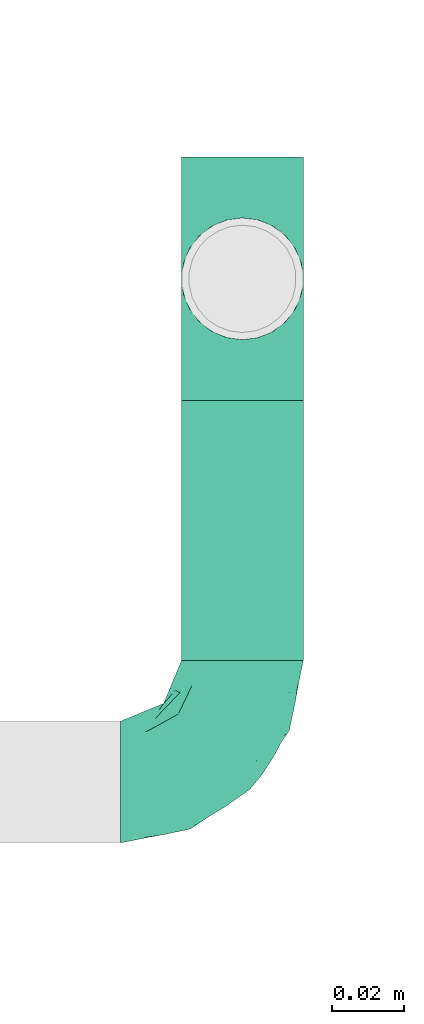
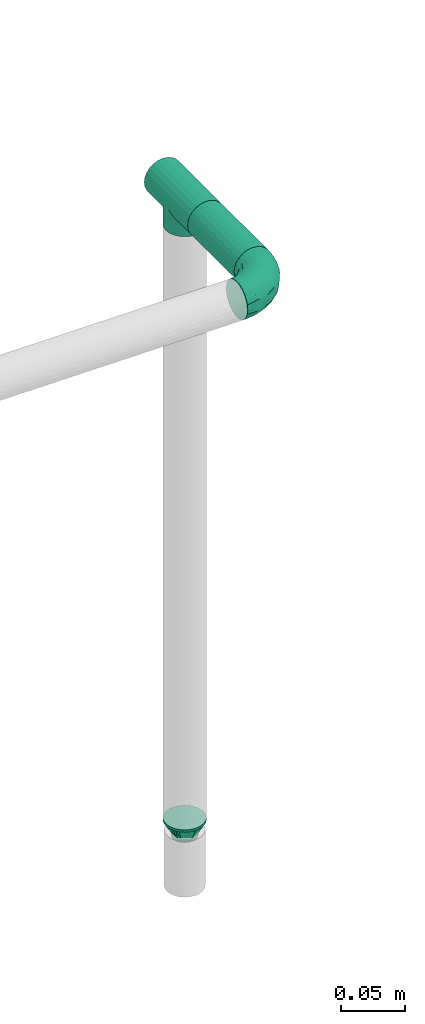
# One storey, part 81 of 94: 3 flow fittings, 1 flow segment.
"""IFC2X3 building model written with IfcOpenShell, lengths in millimetres."""

from ifc_helpers import new_model, entity, si_unit, converted_unit, derived_unit, direction, frame, origin_with_axes, origin_2d_with_axis, place, context, subcontext, project, spatial, hollow_circle, extrude, open_shell, surface_model, source, transform, mapped, type_object, element, save


model = new_model("IFC2X3")

# Units and contexts
model_context = context("Model", 3, precision=0.01, world=frame((0.0, 4.29681676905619e-09, 0.0)), true_north=direction((4.01073788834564e-13, 1.0)))
plan_context = context("Plan", 3, precision=0.01, world=frame((0.0, 4.29681676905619e-09, 0.0)), true_north=direction((4.01073788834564e-13, 1.0)))
body_context = subcontext(model_context, "Body", "Model", "MODEL_VIEW")
ifc_project = project(units=[converted_unit("PLANEANGLEUNIT", "DEGREE", entity("IfcPositiveLengthMeasure", 0.0174532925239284), si_unit("PLANEANGLEUNIT", "RADIAN"), dimensions=[0, 0, 0, 0, 0, 0, 0]), si_unit("AREAUNIT", "SQUARE_METRE"), si_unit("LENGTHUNIT", "METRE", prefix="MILLI"), si_unit("MASSUNIT", "GRAM", prefix="KILO"), si_unit("POWERUNIT", "WATT"), si_unit("PRESSUREUNIT", "PASCAL", prefix="KILO"), si_unit("FORCEUNIT", "NEWTON", prefix="KILO"), si_unit("ELECTRICVOLTAGEUNIT", "VOLT"), si_unit("ELECTRICCURRENTUNIT", "AMPERE"), si_unit("THERMODYNAMICTEMPERATUREUNIT", "DEGREE_CELSIUS"), si_unit("TIMEUNIT", "SECOND"), si_unit("VOLUMEUNIT", "CUBIC_METRE"), derived_unit("LINEARVELOCITYUNIT", [(si_unit("LENGTHUNIT", "METRE"), 1), (si_unit("TIMEUNIT", "SECOND"), -1)]), derived_unit("VOLUMETRICFLOWRATEUNIT", [(si_unit("VOLUMEUNIT", "CUBIC_METRE"), 1), (si_unit("TIMEUNIT", "SECOND"), -1)]), derived_unit("THERMALTRANSMITTANCEUNIT", [(si_unit("POWERUNIT", "WATT"), 1), (si_unit("THERMODYNAMICTEMPERATUREUNIT", "KELVIN"), -1), (si_unit("AREAUNIT", "SQUARE_METRE"), -1)]), derived_unit("SOUNDPRESSUREUNIT", [(si_unit("PRESSUREUNIT", "PASCAL"), 1)])], contexts=[model_context, plan_context])

# Site, building, storey
site_placement = place(None, frame((0.0, -4.29681676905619e-09, 0.0), z_axis=(0.0, 0.0, 1.0), x_axis=(1.0, 0.0, 0.0)))
site = spatial("IfcSite", under=ifc_project, at=site_placement, CompositionType="ELEMENT")
building_placement = place(site_placement, frame((0.0, 4.29681676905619e-09, 0.0), z_axis=(0.0, 0.0, 1.0), x_axis=(1.0, 0.0, 0.0)))
building = spatial("IfcBuilding", under=site, at=building_placement, Name="mc-building", CompositionType="ELEMENT")
storey_placement = place(building_placement, frame((0.0, 0.0, 210900.0), z_axis=(0.0, 0.0, 1.0), x_axis=(1.0, 0.0, 0.0)))
storey = spatial("IfcBuildingStorey", under=building, at=storey_placement, Name="Nivå F", CompositionType="ELEMENT", Elevation=210900.0)

# Flow fittings
pipe_fitting_type_1 = type_object("IfcPipeFittingType", Name="magi_pipe_fe_reducer_centric_short_NOR", PredefinedType="TRANSITION")
shared_shape_1 = source(origin_with_axes(), body_context, "Body", "SurfaceModel", [
    surface_model("IfcShellBasedSurfaceModel", [(14.4, 5.35, -9.26647), (14.4, 0.0, -10.7), (14.4, 2.76936, -10.33541), (14.4, 10.33541, -2.76936), (14.4, 7.56604, -7.56604), (14.4, -10.33541, -2.76936), (14.4, 9.26647, -5.35), (14.4, 0.0, 10.7), (14.4, -5.35, -9.26647), (14.4, -2.76936, -10.33541), (14.4, -7.56604, -7.56604), (14.4, -9.26647, -5.35), (14.4, 10.7, 0.0), (14.4, 10.33541, 2.76936), (14.4, 9.26647, 5.35), (14.4, 7.56604, 7.56604), (14.4, 2.76936, 10.33541), (14.4, 5.35, 9.26647), (14.4, -10.33541, 2.76936), (14.4, -7.56604, 7.56604), (14.4, -9.26647, 5.35), (14.4, -10.7, 0.0), (14.4, -2.76936, 10.33541), (14.4, -5.35, 9.26647), (12.4, 2.76936, 10.33541), (12.4, -10.33541, -2.76936), (12.4, 0.0, 10.7), (12.4, 5.35, 9.26647), (12.4, 7.56604, 7.56604), (12.4, 9.26647, 5.35), (12.4, 10.33541, 2.76936), (12.4, -10.33541, 2.76936), (12.4, -2.76936, 10.33541), (12.4, -7.56604, 7.56604), (12.4, -5.35, 9.26647), (12.4, -9.26647, 5.35), (12.4, -10.7, 0.0), (12.4, 10.33541, -2.76936), (12.4, 5.35, -9.26647), (12.4, 9.26647, -5.35), (12.4, 7.56604, -7.56604), (12.4, 2.76936, -10.33541), (12.4, -9.26647, -5.35), (12.4, -5.35, -9.26647), (12.4, -7.56604, -7.56604), (12.4, 0.0, -10.7), (12.4, -2.76936, -10.33541), (12.4, 10.7, 0.0), (-2.0, 11.9501, 11.9501), (-2.0, 0.0, 16.9), (-2.0, 4.37404, 16.32415), (-2.0, 8.45, 14.63583), (-2.0, 14.63583, 8.45), (-2.0, 16.32415, 4.37404), (-2.0, -16.32415, 4.37404), (-2.0, -8.45, 14.63583), (-2.0, -14.63583, 8.45), (-2.0, -11.9501, 11.9501), (-2.0, -4.37404, 16.32415), (-2.0, -16.32415, -4.37404), (-2.0, -16.9, 0.0), (-2.0, -8.45, -14.63583), (-2.0, 16.32415, -4.37404), (-2.0, 11.9501, -11.9501), (-2.0, 14.63583, -8.45), (-2.0, 8.45, -14.63583), (-2.0, 4.37404, -16.32415), (-2.0, 0.0, -16.9), (-2.0, -11.9501, -11.9501), (-2.0, -14.63583, -8.45), (-2.0, -4.37404, -16.32415), (-2.0, 16.9, 0.0), (0.0, 4.37404, -16.32415), (0.0, 8.45, -14.63583), (0.0, 11.9501, -11.9501), (0.0, 0.0, -16.9), (0.0, 16.32415, -4.37404), (0.0, 16.32415, 4.37404), (0.0, 14.63583, -8.45), (0.0, -8.45, -14.63583), (0.0, -4.37404, -16.32415), (0.0, -11.9501, -11.9501), (0.0, -16.32415, -4.37404), (0.0, -14.63583, -8.45), (0.0, -16.32415, 4.37404), (0.0, 16.9, 0.0), (0.0, 14.63583, 8.45), (0.0, 11.9501, 11.9501), (0.0, 4.37404, 16.32415), (0.0, 8.45, 14.63583), (0.0, 0.0, 16.9), (0.0, -14.63583, 8.45), (0.0, -16.9, 0.0), (0.0, -8.45, 14.63583), (0.0, -11.9501, 11.9501), (0.0, -4.37404, 16.32415), (12.4, 9.3625, -2.31662), (0.0, 14.42505, -5.97505), (0.0, 15.66253, -2.98753), (12.4, -6.6875, -6.94985), (0.0, -13.18758, -8.96258), (0.0, 2.98753, -15.66253), (12.4, 0.0, -9.26647), (12.4, 6.6875, -6.94985), (0.0, 8.96258, -13.18758), (12.4, -9.3625, -2.31662), (0.0, -15.66253, -2.98753), (0.0, -14.42505, -5.97505), (0.0, 5.97505, -14.42505), (0.0, -2.98753, -15.66253), (0.0, -8.96258, -13.18758), (0.0, 13.18758, -8.96258), (12.4, 8.025, -4.63324), (12.4, -2.675, -9.26647), (12.4, 2.675, -9.26647), (0.0, -5.97505, -14.42505), (12.4, -8.025, -4.63324), (12.4, -9.3625, 2.31662), (0.0, -14.42505, 5.97505), (0.0, -15.66253, 2.98753), (12.4, 6.6875, 6.94985), (0.0, 13.18758, 8.96258), (0.0, -2.98753, 15.66253), (12.4, 0.0, 9.26647), (12.4, -6.6875, 6.94985), (0.0, -8.96258, 13.18758), (12.4, 9.3625, 2.31662), (0.0, 15.66253, 2.98753), (0.0, 14.42505, 5.97505), (0.0, -5.97505, 14.42505), (0.0, 2.98753, 15.66253), (0.0, 8.96258, 13.18758), (0.0, -13.18758, 8.96258), (12.4, -8.025, 4.63324), (12.4, 2.675, 9.26647), (12.4, -2.675, 9.26647), (0.0, 5.97505, 14.42505), (12.4, 8.025, 4.63324)], [open_shell([[[0, 1, 2]], [[3, 0, 4]], [[5, 0, 3]], [[3, 4, 6]], [[7, 5, 3]], [[1, 8, 9]], [[1, 0, 8]], [[10, 5, 11]], [[5, 10, 8]], [[0, 5, 8]], [[3, 12, 13]], [[13, 14, 15]], [[13, 15, 16]], [[7, 3, 16]], [[16, 15, 17]], [[7, 18, 5]], [[18, 19, 20]], [[21, 5, 18]], [[19, 22, 23]], [[22, 19, 18]], [[7, 22, 18]], [[13, 16, 3]], [[24, 25, 26]], [[27, 25, 24]], [[28, 29, 30]], [[28, 25, 27]], [[31, 26, 25]], [[32, 33, 34]], [[33, 32, 31]], [[33, 31, 35]], [[32, 26, 31]], [[31, 25, 36]], [[30, 37, 28]], [[25, 28, 37]], [[38, 37, 39]], [[37, 38, 25]], [[38, 39, 40]], [[41, 25, 38]], [[42, 43, 44]], [[43, 42, 25]], [[43, 45, 46]], [[43, 25, 41]], [[41, 45, 43]], [[37, 30, 47]], [[25, 5, 36]], [[42, 11, 25]], [[8, 44, 43]], [[42, 44, 10]], [[9, 43, 46]], [[25, 11, 5]], [[5, 21, 36]], [[9, 8, 43]], [[10, 44, 8]], [[10, 11, 42]], [[1, 9, 46]], [[46, 45, 1]], [[41, 2, 45]], [[38, 0, 41]], [[6, 40, 39]], [[38, 40, 4]], [[3, 39, 37]], [[38, 4, 0]], [[0, 2, 41]], [[12, 3, 37]], [[6, 39, 3]], [[6, 4, 40]], [[47, 12, 37]], [[45, 2, 1]], [[30, 13, 47]], [[29, 14, 30]], [[17, 28, 27]], [[29, 28, 15]], [[16, 27, 24]], [[30, 14, 13]], [[13, 12, 47]], [[16, 17, 27]], [[15, 28, 17]], [[15, 14, 29]], [[7, 16, 24]], [[24, 26, 7]], [[32, 22, 26]], [[34, 23, 32]], [[20, 33, 35]], [[34, 33, 19]], [[18, 35, 31]], [[34, 19, 23]], [[23, 22, 32]], [[21, 18, 31]], [[20, 35, 18]], [[20, 19, 33]], [[36, 21, 31]], [[26, 22, 7]], [[48, 49, 50]], [[48, 50, 51]], [[48, 52, 53]], [[48, 53, 49]], [[49, 53, 54]], [[55, 56, 57]], [[55, 58, 49]], [[56, 55, 49]], [[49, 54, 56]], [[54, 59, 60]], [[54, 53, 61]], [[53, 62, 63]], [[63, 62, 64]], [[63, 65, 66]], [[61, 53, 63]], [[67, 63, 66]], [[59, 68, 69]], [[68, 59, 61]], [[61, 67, 70]], [[59, 54, 61]], [[63, 67, 61]], [[53, 71, 62]], [[72, 73, 74]], [[75, 72, 74]], [[74, 76, 77]], [[76, 74, 78]], [[74, 77, 79]], [[75, 79, 80]], [[75, 74, 79]], [[81, 82, 83]], [[82, 81, 79]], [[79, 84, 82]], [[77, 76, 85]], [[77, 86, 87]], [[77, 87, 88]], [[88, 84, 79]], [[88, 87, 89]], [[84, 88, 90]], [[90, 91, 84]], [[92, 82, 84]], [[91, 93, 94]], [[91, 90, 93]], [[93, 90, 95]], [[79, 77, 88]], [[59, 82, 60]], [[69, 83, 59]], [[79, 68, 61]], [[69, 68, 81]], [[80, 61, 70]], [[59, 83, 82]], [[82, 92, 60]], [[80, 79, 61]], [[81, 68, 79]], [[81, 83, 69]], [[75, 80, 70]], [[70, 67, 75]], [[66, 72, 67]], [[65, 73, 66]], [[78, 63, 64]], [[65, 63, 74]], [[76, 64, 62]], [[65, 74, 73]], [[73, 72, 66]], [[85, 76, 62]], [[78, 64, 76]], [[78, 74, 63]], [[71, 85, 62]], [[67, 72, 75]], [[53, 77, 71]], [[52, 86, 53]], [[89, 48, 51]], [[52, 48, 87]], [[88, 51, 50]], [[53, 86, 77]], [[77, 85, 71]], [[88, 89, 51]], [[87, 48, 89]], [[87, 86, 52]], [[90, 88, 50]], [[50, 49, 90]], [[58, 95, 49]], [[55, 93, 58]], [[91, 57, 56]], [[55, 57, 94]], [[84, 56, 54]], [[55, 94, 93]], [[93, 95, 58]], [[92, 84, 54]], [[91, 56, 84]], [[91, 94, 57]], [[60, 92, 54]], [[49, 95, 90]], [[27, 34, 47]], [[47, 34, 43]], [[43, 38, 47]], [[43, 34, 36]], [[90, 87, 94]], [[92, 94, 87]], [[87, 74, 92]], [[75, 92, 74]], [[81, 92, 75]], [[74, 87, 85]], [[96, 97, 98]], [[81, 99, 100]], [[101, 102, 75]], [[98, 85, 47]], [[74, 103, 104]], [[104, 103, 38]], [[105, 106, 107]], [[38, 108, 104]], [[102, 109, 75]], [[110, 99, 81]], [[47, 96, 98]], [[103, 111, 112]], [[109, 102, 113]], [[36, 92, 106]], [[102, 101, 114]], [[110, 115, 43]], [[96, 112, 97]], [[107, 116, 105]], [[36, 106, 105]], [[113, 115, 109]], [[43, 115, 113]], [[116, 107, 100]], [[108, 38, 114]], [[111, 103, 74]], [[111, 97, 112]], [[99, 110, 43]], [[116, 100, 99]], [[101, 108, 114]], [[117, 118, 119]], [[87, 120, 121]], [[122, 123, 90]], [[119, 92, 36]], [[94, 124, 125]], [[125, 124, 34]], [[126, 127, 128]], [[34, 129, 125]], [[123, 130, 90]], [[131, 120, 87]], [[36, 117, 119]], [[124, 132, 133]], [[130, 123, 134]], [[47, 85, 127]], [[123, 122, 135]], [[131, 136, 27]], [[117, 133, 118]], [[128, 137, 126]], [[47, 127, 126]], [[134, 136, 130]], [[27, 136, 134]], [[137, 128, 121]], [[129, 34, 135]], [[132, 124, 94]], [[132, 118, 133]], [[120, 131, 27]], [[137, 121, 120]], [[122, 129, 135]]])]),
])
flow_fitting_1_placement = place(storey_placement, frame((721900.18546, 446130.2735, 3059.35200000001), z_axis=(1.0, 0.0, 0.0), x_axis=(0.0, 0.0, -1.0)))
element("IfcFlowFitting", 1, at=flow_fitting_1_placement, inside=storey, type_object=pipe_fitting_type_1, Name="magi_pipe_fe_reducer_centric_short_NOR", context=body_context, shape_type="MappedRepresentation", body=[
    mapped(shared_shape_1, transform((0.0, 0.0, 0.0), scale=1.0)),
])
pipe_fitting_type_2 = type_object("IfcPipeFittingType", Name="magi_pipe_fe_tee_centric_90_NOR", PredefinedType="JUNCTION")
shared_shape_2 = source(origin_with_axes(), body_context, "Body", "SurfaceModel", [
    surface_model("IfcShellBasedSurfaceModel", [(-33.8, 4.37404, -16.32415), (-33.8, 0.0, -16.9), (-33.8, 16.32415, -4.37404), (-33.8, 8.45, -14.63583), (-33.8, 11.9501, -11.9501), (-33.8, 14.63583, -8.45), (-33.8, -16.9, 0.0), (-33.8, -11.9501, -11.9501), (-33.8, -14.63583, -8.45), (-33.8, -8.45, -14.63583), (-33.8, -4.37404, -16.32415), (-33.8, -16.32415, -4.37404), (-33.8, 14.63583, 8.45), (-33.8, 16.32415, 4.37404), (-33.8, -8.45, 14.63583), (-33.8, 8.45, 14.63583), (-33.8, 11.9501, 11.9501), (-33.8, 4.37404, 16.32415), (-33.8, 0.0, 16.9), (-33.8, -11.9501, 11.9501), (-33.8, -14.63583, 8.45), (-33.8, -16.32415, 4.37404), (-33.8, -4.37404, 16.32415), (-33.8, 16.9, 0.0), (33.8, 4.37404, -16.32415), (33.8, -16.9, 0.0), (33.8, 0.0, -16.9), (33.8, 14.63583, -8.45), (33.8, 8.45, -14.63583), (33.8, 16.32415, -4.37404), (33.8, 11.9501, -11.9501), (33.8, -16.32415, 4.37404), (33.8, -8.45, -14.63583), (33.8, -4.37404, -16.32415), (33.8, -11.9501, -11.9501), (33.8, -14.63583, -8.45), (33.8, -16.32415, -4.37404), (33.8, 16.32415, 4.37404), (33.8, 8.45, 14.63583), (33.8, 14.63583, 8.45), (33.8, 11.9501, 11.9501), (33.8, -8.45, 14.63583), (33.8, 4.37404, 16.32415), (33.8, -14.63583, 8.45), (33.8, -11.9501, 11.9501), (33.8, 0.0, 16.9), (33.8, -4.37404, 16.32415), (33.8, 16.9, 0.0), (16.28698, -16.28698, 4.51047), (16.9, -16.9, 0.0), (14.62704, -14.62704, 8.4652), (9.47213, -9.47213, 13.99602), (12.26343, -12.26343, 11.62834), (-16.9, -16.9, 0.0), (-16.28698, -16.28698, 4.51047), (-14.62704, -14.62704, 8.4652), (-12.26343, -12.26343, 11.62834), (-9.47213, -9.47213, 13.99602), (-6.42894, -6.42894, 15.62942), (6.42894, -6.42894, 15.62942), (3.24522, -3.24522, 16.58549), (0.0, 0.0, 16.9), (-3.24522, -3.24522, 16.58549), (3.24522, -3.24522, -16.58549), (0.0, 0.0, -16.9), (-3.24522, -3.24522, -16.58549), (-6.42894, -6.42894, -15.62942), (6.42894, -6.42894, -15.62942), (9.47213, -9.47213, -13.99602), (12.26343, -12.26343, -11.62834), (14.62704, -14.62704, -8.4652), (16.28698, -16.28698, -4.51047), (-9.47213, -9.47213, -13.99602), (-12.26343, -12.26343, -11.62834), (-16.28698, -16.28698, -4.51047), (-14.62704, -14.62704, -8.4652), (4.37404, -25.35, -16.32415), (-16.9, -25.35, 0.0), (0.0, -25.35, -16.9), (14.63583, -25.35, -8.45), (8.45, -25.35, -14.63583), (16.32415, -25.35, -4.37404), (11.9501, -25.35, -11.9501), (-11.9501, -25.35, -11.9501), (-8.45, -25.35, -14.63583), (-4.37404, -25.35, -16.32415), (-14.63583, -25.35, -8.45), (-16.32415, -25.35, -4.37404), (16.9, -25.35, 0.0), (8.45, -25.35, 14.63583), (16.32415, -25.35, 4.37404), (14.63583, -25.35, 8.45), (-8.45, -25.35, 14.63583), (11.9501, -25.35, 11.9501), (4.37404, -25.35, 16.32415), (-16.32415, -25.35, 4.37404), (-11.9501, -25.35, 11.9501), (-14.63583, -25.35, 8.45), (0.0, -25.35, 16.9), (-4.37404, -25.35, 16.32415)], [open_shell([[[0, 1, 2]], [[3, 0, 4]], [[0, 2, 5]], [[4, 0, 5]], [[6, 2, 1]], [[7, 8, 9]], [[1, 10, 9]], [[11, 6, 8]], [[1, 9, 8]], [[1, 8, 6]], [[6, 12, 2]], [[12, 13, 2]], [[14, 12, 6]], [[12, 14, 15]], [[16, 12, 15]], [[17, 15, 18]], [[19, 14, 20]], [[21, 20, 14]], [[22, 18, 14]], [[14, 6, 21]], [[14, 18, 15]], [[23, 2, 13]], [[24, 25, 26]], [[27, 24, 28]], [[27, 29, 24]], [[27, 28, 30]], [[31, 25, 24]], [[26, 32, 33]], [[26, 34, 32]], [[35, 25, 36]], [[35, 34, 26]], [[25, 35, 26]], [[24, 29, 31]], [[29, 37, 38]], [[38, 37, 39]], [[38, 31, 29]], [[38, 39, 40]], [[41, 38, 42]], [[43, 41, 44]], [[41, 43, 31]], [[41, 45, 46]], [[41, 31, 38]], [[42, 45, 41]], [[29, 47, 37]], [[31, 43, 48]], [[25, 31, 49]], [[49, 31, 48]], [[43, 50, 48]], [[44, 41, 51]], [[50, 43, 52]], [[51, 52, 44]], [[52, 43, 44]], [[53, 54, 21]], [[53, 21, 6]], [[21, 54, 20]], [[54, 55, 20]], [[56, 57, 19]], [[19, 20, 56]], [[19, 57, 14]], [[56, 20, 55]], [[14, 57, 58]], [[51, 41, 59]], [[60, 45, 61]], [[59, 46, 60]], [[46, 59, 41]], [[60, 46, 45]], [[61, 45, 42]], [[39, 37, 13]], [[16, 38, 40]], [[12, 40, 39]], [[42, 38, 15]], [[23, 37, 47]], [[62, 61, 18]], [[62, 22, 58]], [[22, 62, 18]], [[58, 22, 14]], [[61, 17, 18]], [[42, 17, 61]], [[15, 17, 42]], [[15, 38, 16]], [[12, 16, 40]], [[13, 12, 39]], [[37, 23, 13]], [[5, 27, 30]], [[23, 47, 29]], [[30, 28, 3]], [[27, 2, 29]], [[26, 33, 63]], [[26, 64, 24]], [[64, 26, 63]], [[28, 24, 0]], [[64, 0, 24]], [[4, 30, 3]], [[2, 27, 5]], [[5, 30, 4]], [[2, 23, 29]], [[65, 66, 10]], [[1, 0, 64]], [[1, 65, 10]], [[66, 9, 10]], [[0, 3, 28]], [[1, 64, 65]], [[63, 33, 67]], [[32, 34, 68]], [[69, 68, 34]], [[35, 70, 69]], [[69, 34, 35]], [[32, 68, 67]], [[36, 25, 49]], [[36, 71, 35]], [[71, 36, 49]], [[35, 71, 70]], [[72, 9, 66]], [[72, 7, 9]], [[7, 72, 73]], [[7, 73, 8]], [[74, 53, 11]], [[75, 74, 8]], [[74, 11, 8]], [[11, 53, 6]], [[75, 8, 73]], [[32, 67, 33]], [[76, 77, 78]], [[79, 76, 80]], [[79, 81, 76]], [[79, 80, 82]], [[77, 76, 81]], [[78, 83, 84]], [[84, 85, 78]], [[86, 77, 87]], [[83, 78, 86]], [[77, 86, 78]], [[81, 88, 77]], [[89, 88, 90]], [[89, 90, 91]], [[92, 77, 89]], [[89, 91, 93]], [[92, 89, 94]], [[95, 96, 97]], [[96, 95, 92]], [[92, 98, 99]], [[95, 77, 92]], [[94, 98, 92]], [[89, 77, 88]], [[77, 95, 53]], [[54, 53, 95]], [[97, 96, 56]], [[96, 92, 57]], [[95, 97, 54]], [[58, 92, 99]], [[55, 54, 97]], [[56, 55, 97]], [[58, 57, 92]], [[98, 61, 62]], [[58, 99, 62]], [[56, 96, 57]], [[62, 99, 98]], [[94, 60, 98]], [[89, 59, 94]], [[91, 90, 48]], [[52, 93, 91]], [[93, 51, 89]], [[49, 90, 88]], [[59, 60, 94]], [[51, 59, 89]], [[49, 48, 90]], [[50, 52, 91]], [[48, 50, 91]], [[51, 93, 52]], [[98, 60, 61]], [[88, 81, 49]], [[71, 49, 81]], [[79, 82, 69]], [[82, 80, 68]], [[81, 79, 71]], [[67, 80, 76]], [[70, 71, 79]], [[69, 70, 79]], [[67, 68, 80]], [[78, 64, 63]], [[67, 76, 63]], [[69, 82, 68]], [[63, 76, 78]], [[85, 65, 78]], [[84, 66, 85]], [[86, 87, 74]], [[86, 73, 83]], [[72, 84, 83]], [[53, 87, 77]], [[66, 65, 85]], [[72, 66, 84]], [[53, 74, 87]], [[75, 73, 86]], [[74, 75, 86]], [[72, 83, 73]], [[78, 65, 64]]])]),
])
flow_fitting_2_placement = place(storey_placement, frame((721900.18546, 446130.2735, 3650.0), z_axis=(-1.0, 0.0, 0.0), x_axis=(0.0, -1.0, 0.0)))
element("IfcFlowFitting", 2, at=flow_fitting_2_placement, inside=storey, type_object=pipe_fitting_type_2, Name="magi_pipe_fe_tee_centric_90_NOR", context=body_context, shape_type="MappedRepresentation", body=[
    mapped(shared_shape_2, transform((0.0, 0.0, 0.0), scale=1.0)),
])
pipe_fitting_type_3 = type_object("IfcPipeFittingType", Name="magi_pipe_fe_elbow_short_001", PredefinedType="BEND")
shared_shape_3 = source(origin_with_axes(), body_context, "Body", "SurfaceModel", [
    surface_model("IfcShellBasedSurfaceModel", [(-33.8, 8.45, -14.63583), (-33.8, 4.37404, -16.32415), (-33.8, 11.9501, -11.9501), (-33.8, -11.9501, -11.9501), (-33.8, -14.63583, -8.45), (-33.8, -8.45, -14.63583), (-33.8, 0.0, -16.9), (-33.8, -4.37404, -16.32415), (-33.8, -4.37404, 16.32415), (-33.8, 0.0, 16.9), (-33.8, -8.45, 14.63583), (-33.8, 16.32415, -4.37404), (-33.8, 14.63583, -8.45), (-33.8, -16.32415, -4.37404), (-33.8, -16.9, 0.0), (-33.8, -16.32415, 4.37404), (-33.8, 11.9501, 11.9501), (-33.8, 14.63583, 8.45), (-33.8, 16.32415, 4.37404), (-33.8, 4.37404, 16.32415), (-33.8, 8.45, 14.63583), (-33.8, -14.63583, 8.45), (-33.8, -11.9501, 11.9501), (-33.8, 16.9, 0.0), (-11.9501, 33.8, -11.9501), (0.0, 33.8, -16.9), (-4.37404, 33.8, -16.32415), (-8.45, 33.8, -14.63583), (-14.63583, 33.8, -8.45), (-16.32415, 33.8, -4.37404), (14.63583, 33.8, -8.45), (8.45, 33.8, 14.63583), (16.32415, 33.8, -4.37404), (8.45, 33.8, -14.63583), (11.9501, 33.8, -11.9501), (4.37404, 33.8, -16.32415), (16.32415, 33.8, 4.37404), (16.9, 33.8, 0.0), (-11.9501, 33.8, 11.9501), (-16.32415, 33.8, 4.37404), (-14.63583, 33.8, 8.45), (-8.45, 33.8, 14.63583), (-4.37404, 33.8, 16.32415), (11.9501, 33.8, 11.9501), (14.63583, 33.8, 8.45), (0.0, 33.8, 16.9), (4.37404, 33.8, 16.32415), (-16.9, 33.8, 0.0), (-24.79389, -13.12945, 9.48721), (-22.19287, -9.75018, 12.59315), (-24.09897, -14.97035, 0.0), (-14.93934, -10.76256, 8.5297), (-22.46095, -14.75051, 5.27077), (14.75051, 22.46094, 5.27077), (11.9251, 13.23888, 4.33236), (13.04069, 14.39795, 0.0), (7.71387, 13.68847, 11.55891), (9.75018, 22.19287, 12.59315), (4.10169, 13.0571, 14.04018), (-24.84007, -6.39063, 15.2048), (-25.81779, -2.23879, 16.61097), (-23.66549, 2.59054, 16.87119), (-26.50418, 14.06512, 11.08152), (-24.21253, 17.66365, 7.72657), (-29.58514, 15.86957, 7.00283), (-6.17382, -7.5455, 0.0), (-13.23888, -11.9251, 4.33236), (-14.39795, -13.04069, 0.0), (-17.81434, 18.87373, 11.97104), (-6.30846, 29.15138, 15.82987), (-2.31622, 25.28002, 16.85849), (-29.23923, 10.23435, 13.77053), (-1.45439, -2.85688, 7.61475), (-0.28326, 0.34872, 10.09509), (-5.74484, -4.04709, 10.4122), (-4.41137, 11.31918, 16.59407), (-8.39727, 3.10034, 15.7812), (-1.72649, 9.1306, 15.53089), (-17.39909, 24.75344, 7.64977), (-26.19233, 20.0512, 0.0), (-28.14518, 17.29657, 4.25857), (-26.05147, 6.6281, 15.96447), (-5.87354, 16.61944, 16.86968), (-12.51807, 12.51807, 16.48937), (-10.06312, 7.38516, 16.81295), (-3.01882, 3.01882, 13.81718), (-13.0571, -4.10169, 14.04018), (-16.82553, -0.15166, 16.38038), (10.76256, 14.93934, 8.5297), (13.12945, 24.79389, 9.48721), (6.39063, 24.84007, 15.2048), (2.23879, 25.81779, 16.61097), (-13.68847, -7.71387, 11.55891), (14.97035, 24.09897, 0.0), (-7.30894, 22.89991, 16.09489), (-10.67958, 26.17414, 14.008), (-12.78295, 18.26924, 15.06066), (-13.88562, 22.45231, 12.93244), (-18.04944, 15.16501, 14.04434), (-23.11658, 20.08178, 4.02986), (-21.84989, 21.84989, 0.0), (-18.55817, 25.48277, 3.93065), (-13.95142, 26.94732, 11.03289), (-18.57098, 7.23906, 16.59756), (-16.58335, 4.14122, 16.89279), (-17.96666, 11.46709, 15.63151), (-9.84453, 17.54304, 16.18938), (0.15166, 16.82553, 16.38038), (-23.27207, 11.47201, 14.23154), (3.84842, 5.86994, 10.70473), (-8.0212, -7.54413, 7.93275), (1.00345, -2.19508, 4.57414), (5.13203, 3.01004, 5.90201), (5.24161, 1.7543, 2.53265), (8.70457, 7.04947, 3.99182), (-20.0512, 26.19233, 0.0), (8.4852, 8.76699, 7.09296), (-4.55488, -6.72064, 4.90681), (2.05031, -2.05031, 0.0), (7.5455, 6.17382, 0.0), (-26.75399, 2.1369, -16.845), (-14.61995, 24.73803, -11.27736), (-28.45274, -13.45335, -9.81895), (-26.00469, 6.63555, -15.96645), (-23.06726, 20.04573, -4.26202), (-13.80647, -4.26506, -14.17873), (-14.67501, -0.21081, -16.07388), (-6.7902, -0.2828, -13.8478), (-24.53586, 11.08096, -14.13417), (-26.72048, 14.00837, -11.05776), (10.0967, 24.44989, -12.75976), (5.83237, 21.40218, -15.03047), (6.66249, 28.54238, -15.38093), (-20.38182, 15.48705, -12.74596), (12.53268, 21.23441, -9.15363), (12.54494, 15.67504, -5.54878), (9.7522, 12.89279, -8.66343), (-15.65186, 19.64213, -13.01327), (-12.03528, 20.66498, -14.67665), (-15.61907, 15.61906, -14.83879), (-25.56551, -15.26206, 0.0), (-24.65452, -15.12934, -5.50955), (13.45335, 28.45274, -9.81895), (15.12934, 24.65452, -5.50955), (-7.35442, -8.31014, -5.65563), (-15.67504, -12.54494, -5.54878), (-24.44989, -10.0967, -12.75976), (0.16522, 0.41303, -9.71728), (-5.70658, -5.33066, -8.89288), (-5.13869, -2.37198, -11.53565), (-21.23441, -12.53268, -9.15363), (0.71146, 7.93863, -14.09382), (0.21081, 14.67501, -16.07388), (3.49291, 14.42772, -14.76381), (-24.89911, -2.13088, -16.591), (-28.54238, -6.66249, -15.38093), (-18.44386, -7.71663, -13.26957), (2.13088, 24.89911, -16.591), (-28.64342, 17.44413, -2.89318), (1.70017, -1.28722, -5.09504), (-16.57067, 26.81947, -7.36596), (-17.69055, 27.4263, -3.76405), (-12.89279, -9.7522, -8.66343), (-5.96611, 5.96611, -15.95814), (-20.53709, 20.09345, -8.28985), (-2.1369, 26.75399, -16.845), (-6.89872, 24.58781, -16.02578), (-10.60739, 26.53157, -13.98044), (-21.40218, -5.83237, -15.03047), (2.93192, 5.89627, -11.55917), (6.89393, 12.61842, -11.82233), (5.58056, 5.95325, -8.79455), (-3.99512, 18.61798, -16.89635), (8.31014, 7.35442, -5.65563), (-9.1383, 9.86148, -16.89041), (-9.99983, 16.02119, -16.39699), (-16.68576, 9.78031, -16.34199), (-27.01915, 16.61158, -7.12979), (15.26206, 25.56551, 0.0), (-18.61798, 3.99512, -16.89635), (-19.37495, 27.82495, 0.0), (-12.61842, -6.89393, -11.82233), (-18.84705, 19.14018, -10.96545)], [open_shell([[[0, 1, 2]], [[3, 4, 5]], [[6, 7, 5]], [[8, 9, 10]], [[1, 6, 2]], [[11, 12, 2]], [[4, 2, 6]], [[2, 13, 10]], [[5, 4, 6]], [[2, 4, 13]], [[14, 15, 13]], [[11, 2, 16]], [[11, 17, 18]], [[11, 16, 17]], [[19, 20, 16]], [[16, 2, 10]], [[19, 16, 10]], [[21, 22, 15]], [[22, 13, 15]], [[22, 10, 13]], [[10, 9, 19]], [[11, 18, 23]], [[24, 25, 26]], [[24, 26, 27]], [[24, 28, 29]], [[25, 24, 30]], [[31, 32, 24]], [[33, 30, 34]], [[33, 35, 25]], [[25, 30, 33]], [[32, 30, 24]], [[32, 36, 37]], [[38, 24, 29]], [[39, 40, 29]], [[40, 38, 29]], [[38, 41, 42]], [[38, 31, 24]], [[31, 38, 42]], [[36, 43, 44]], [[36, 32, 43]], [[31, 45, 46]], [[32, 31, 43]], [[42, 45, 31]], [[39, 29, 47]], [[22, 48, 49]], [[15, 14, 50]], [[51, 48, 52]], [[53, 54, 55]], [[48, 22, 21]], [[15, 52, 21]], [[56, 57, 58]], [[49, 10, 22]], [[49, 59, 10]], [[9, 60, 61]], [[62, 63, 64]], [[65, 66, 67]], [[57, 43, 31]], [[62, 68, 63]], [[42, 69, 70]], [[20, 71, 16]], [[8, 60, 9]], [[72, 73, 74]], [[75, 76, 77]], [[16, 62, 17]], [[40, 39, 78]], [[79, 23, 80]], [[64, 18, 17]], [[9, 61, 19]], [[19, 81, 20]], [[82, 83, 84]], [[74, 85, 86]], [[59, 86, 87]], [[88, 89, 57]], [[90, 31, 46]], [[44, 53, 36]], [[46, 45, 91]], [[54, 53, 88]], [[44, 89, 53]], [[92, 86, 49]], [[89, 44, 43]], [[10, 59, 8]], [[53, 55, 93]], [[93, 36, 53]], [[66, 52, 67]], [[94, 82, 70]], [[95, 96, 94]], [[97, 98, 96]], [[79, 99, 100]], [[41, 38, 95]], [[101, 100, 99]], [[68, 78, 63]], [[42, 41, 69]], [[23, 18, 80]], [[95, 94, 69]], [[78, 101, 99]], [[38, 102, 95]], [[70, 45, 42]], [[97, 95, 102]], [[15, 50, 52]], [[90, 57, 31]], [[57, 90, 58]], [[81, 19, 61]], [[103, 104, 84]], [[105, 81, 103]], [[38, 40, 102]], [[106, 96, 83]], [[94, 106, 82]], [[91, 70, 107]], [[71, 62, 16]], [[62, 108, 98]], [[86, 59, 49]], [[67, 52, 50]], [[60, 59, 87]], [[92, 49, 51]], [[86, 85, 76]], [[91, 90, 46]], [[37, 36, 93]], [[107, 77, 58]], [[107, 58, 90]], [[58, 85, 109]], [[110, 74, 92]], [[72, 74, 110]], [[66, 51, 52]], [[72, 111, 112]], [[113, 114, 112]], [[56, 88, 57]], [[52, 48, 21]], [[49, 48, 51]], [[57, 89, 43]], [[53, 89, 88]], [[103, 81, 61]], [[71, 81, 108]], [[18, 64, 80]], [[63, 78, 99]], [[47, 115, 101]], [[101, 115, 100]], [[40, 78, 102]], [[68, 102, 78]], [[97, 96, 95]], [[105, 98, 108]], [[103, 84, 83]], [[107, 70, 82]], [[76, 84, 87]], [[82, 84, 75]], [[70, 91, 45]], [[90, 91, 107]], [[59, 60, 8]], [[61, 60, 87]], [[73, 85, 74]], [[109, 112, 116]], [[103, 61, 104]], [[105, 103, 83]], [[96, 105, 83]], [[81, 105, 108]], [[96, 98, 105]], [[62, 98, 68]], [[61, 87, 104]], [[87, 84, 104]], [[86, 76, 87]], [[77, 76, 85]], [[58, 77, 85]], [[75, 77, 107]], [[82, 75, 107]], [[76, 75, 84]], [[81, 71, 20]], [[62, 71, 108]], [[95, 69, 41]], [[70, 69, 94]], [[62, 64, 17]], [[80, 63, 99]], [[63, 80, 64]], [[80, 99, 79]], [[66, 65, 117]], [[110, 66, 117]], [[112, 114, 116]], [[118, 117, 65]], [[110, 92, 51]], [[112, 111, 113]], [[119, 55, 54]], [[74, 86, 92]], [[58, 109, 56]], [[116, 56, 109]], [[66, 110, 51]], [[72, 110, 117]], [[111, 72, 117]], [[73, 112, 109]], [[117, 118, 111]], [[113, 111, 118]], [[118, 119, 113]], [[114, 119, 54]], [[119, 114, 113]], [[116, 54, 88]], [[54, 116, 114]], [[116, 88, 56]], [[112, 73, 72]], [[85, 73, 109]], [[78, 39, 101]], [[47, 101, 39]], [[102, 68, 97]], [[97, 68, 98]], [[82, 106, 83]], [[94, 96, 106]], [[1, 120, 6]], [[28, 24, 121]], [[3, 122, 4]], [[0, 123, 1]], [[100, 124, 79]], [[125, 126, 127]], [[128, 2, 129]], [[130, 131, 132]], [[128, 129, 133]], [[134, 135, 136]], [[137, 138, 139]], [[128, 0, 2]], [[67, 140, 141]], [[134, 142, 143]], [[141, 13, 4]], [[144, 65, 145]], [[146, 3, 5]], [[147, 148, 149]], [[145, 141, 150]], [[151, 152, 153]], [[154, 7, 6]], [[5, 155, 146]], [[150, 146, 156]], [[155, 5, 7]], [[143, 135, 134]], [[35, 157, 25]], [[23, 79, 158]], [[148, 159, 144]], [[160, 161, 29]], [[145, 162, 144]], [[163, 152, 151]], [[29, 28, 160]], [[121, 164, 160]], [[33, 34, 130]], [[25, 165, 26]], [[26, 165, 166]], [[142, 34, 30]], [[24, 27, 167]], [[124, 161, 164]], [[157, 35, 132]], [[155, 154, 168]], [[123, 0, 128]], [[169, 170, 171]], [[172, 157, 152]], [[26, 166, 27]], [[132, 35, 33]], [[142, 130, 34]], [[168, 154, 126]], [[136, 135, 173]], [[133, 137, 139]], [[2, 12, 129]], [[170, 131, 130]], [[30, 32, 143]], [[172, 174, 175]], [[176, 123, 128]], [[158, 177, 11]], [[135, 55, 119]], [[167, 27, 166]], [[175, 166, 172]], [[137, 167, 138]], [[122, 141, 4]], [[140, 14, 13]], [[32, 37, 178]], [[170, 130, 134]], [[152, 157, 131]], [[165, 157, 172]], [[153, 170, 151]], [[152, 163, 174]], [[168, 125, 156]], [[122, 146, 150]], [[120, 154, 6]], [[179, 174, 126]], [[179, 126, 154]], [[126, 163, 127]], [[162, 145, 150]], [[140, 13, 141]], [[32, 178, 143]], [[55, 143, 178]], [[177, 129, 12]], [[128, 133, 139]], [[176, 128, 139]], [[120, 123, 179]], [[121, 160, 28]], [[161, 100, 180]], [[166, 175, 138]], [[121, 24, 167]], [[161, 47, 29]], [[79, 124, 158]], [[124, 164, 177]], [[161, 124, 100]], [[136, 171, 170]], [[127, 163, 151]], [[147, 171, 159]], [[148, 144, 162]], [[127, 151, 169]], [[127, 181, 125]], [[129, 177, 164]], [[12, 11, 177]], [[159, 65, 144]], [[67, 141, 145]], [[143, 55, 135]], [[135, 119, 173]], [[123, 120, 1]], [[154, 120, 179]], [[157, 165, 25]], [[166, 165, 172]], [[172, 152, 174]], [[176, 139, 175]], [[126, 174, 163]], [[176, 174, 179]], [[174, 176, 175]], [[123, 176, 179]], [[150, 181, 162]], [[127, 149, 181]], [[181, 148, 162]], [[159, 148, 147]], [[171, 136, 173]], [[170, 134, 136]], [[159, 171, 173]], [[171, 147, 169]], [[169, 147, 149]], [[151, 170, 169]], [[164, 182, 129]], [[182, 121, 137]], [[181, 149, 148]], [[169, 149, 127]], [[182, 137, 133]], [[167, 137, 121]], [[166, 138, 167]], [[175, 139, 138]], [[129, 182, 133]], [[121, 182, 164]], [[161, 160, 164]], [[47, 161, 180]], [[177, 158, 124]], [[23, 158, 11]], [[130, 132, 33]], [[157, 132, 131]], [[143, 142, 30]], [[130, 142, 134]], [[154, 155, 7]], [[146, 155, 168]], [[146, 122, 3]], [[141, 122, 150]], [[152, 131, 153]], [[159, 119, 118]], [[67, 145, 65]], [[170, 153, 131]], [[119, 159, 173]], [[159, 118, 65]], [[156, 125, 181]], [[126, 125, 168]], [[150, 156, 181]], [[168, 156, 146]]])]),
])
flow_fitting_3_placement = place(storey_placement, frame((721900.18546, 445990.49682, 3650.0), z_axis=(0.0, 0.0, 1.0), x_axis=(1.0, 0.0, 0.0)))
element("IfcFlowFitting", 3, at=flow_fitting_3_placement, inside=storey, type_object=pipe_fitting_type_3, Name="magi_pipe_fe_elbow_short_001", context=body_context, shape_type="MappedRepresentation", body=[
    mapped(shared_shape_3, transform((0.0, 0.0, 0.0), scale=1.0)),
])

# Flow segment
pipe_segment_type = type_object("IfcPipeSegmentType", Name="Stålrør normaltykke", PredefinedType="RIGIDSEGMENT")
shared_shape_4 = source(origin_with_axes(), body_context, "Body", "SweptSolid", [
    extrude(hollow_circle(Radius=16.9, WallThickness=2.0, at=origin_2d_with_axis()), frame((0.0, 0.0, 0.0), z_axis=(1.0, 0.0, 0.0), x_axis=(0.0, 1.0, 0.0)), (0.0, 0.0, 1.0), 72.2),
])
flow_segment_placement = place(storey_placement, frame((721900.18546, 446024.29682, 3650.0), z_axis=(0.0, 0.0, 1.0), x_axis=(0.0, 1.0, 0.0)))
element("IfcFlowSegment", 4, at=flow_segment_placement, inside=storey, type_object=pipe_segment_type, Name="Stålrør normaltykke", context=body_context, shape_type="MappedRepresentation", body=[
    mapped(shared_shape_4, transform((0.0, 0.0, 0.0), scale=1.0)),
])

save(model, "model.ifc")
